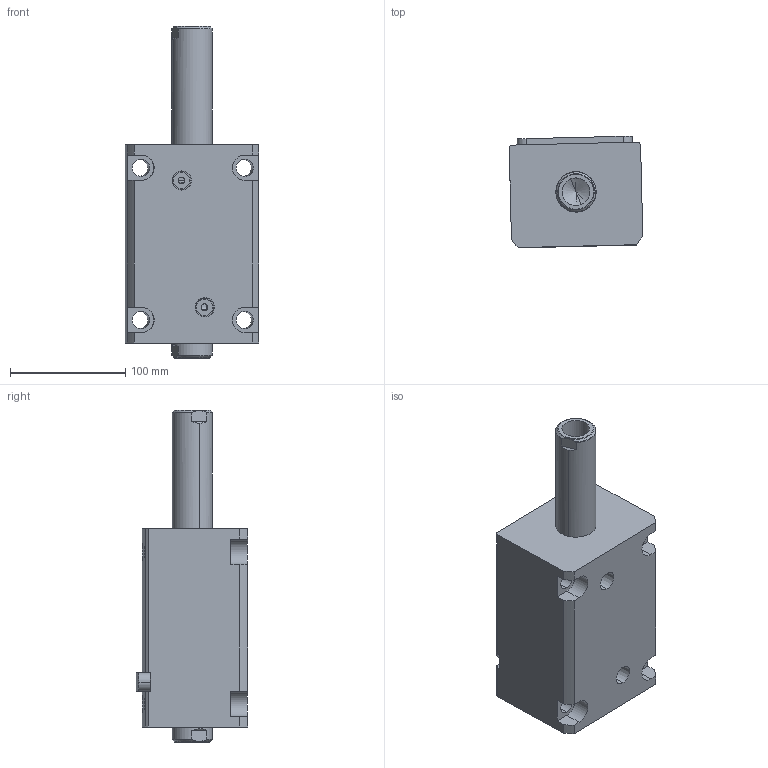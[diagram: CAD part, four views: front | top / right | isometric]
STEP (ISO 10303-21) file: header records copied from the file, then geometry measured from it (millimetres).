
FILE_DESCRIPTION (( 'STEP AP214' ), '1' );
FILE_NAME ('chtb-lw63x90n_asm.STEP', '2018-05-03T08:54:24', ( 'Windows' ), ( 'Microsoft' ), 'SwSTEP 2.0', 'SolidWorks 2015', '' );
FILE_SCHEMA (( 'AUTOMOTIVE_DESIGN' ));
Length unit declared in the file: millimetre
Products named in the file (5): CHTB-LA63PJ; CHTB-SW63X90NHSG; CHTB-LW63X90NBT; CHTB-63QG; chtb-lw63x90n_asm
Assembly tree (4 placements, depth 2):
  chtb-lw63x90n_asm
    CHTB-63QG
    CHTB-LW63X90NBT
    CHTB-SW63X90NHSG
    CHTB-LA63PJ
Bounding box: 115.91 x 96.95 x 288 mm (x, y, z)
Volume: 1559734 mm3; surface area: 203946.9 mm2
Topology: 4 solids, 4 shells, 194 faces, 563 edges, 381 vertices
Faces by surface type: cylinder 104, plane 50, cone 16, bspline 12, torus 12
Entity records: 18887 total; most frequent: CARTESIAN_POINT 13868, ORIENTED_EDGE 1110, DIRECTION 876, EDGE_CURVE 555, VERTEX_POINT 381, AXIS2_PLACEMENT_3D 336, EDGE_LOOP 222, VECTOR 204
